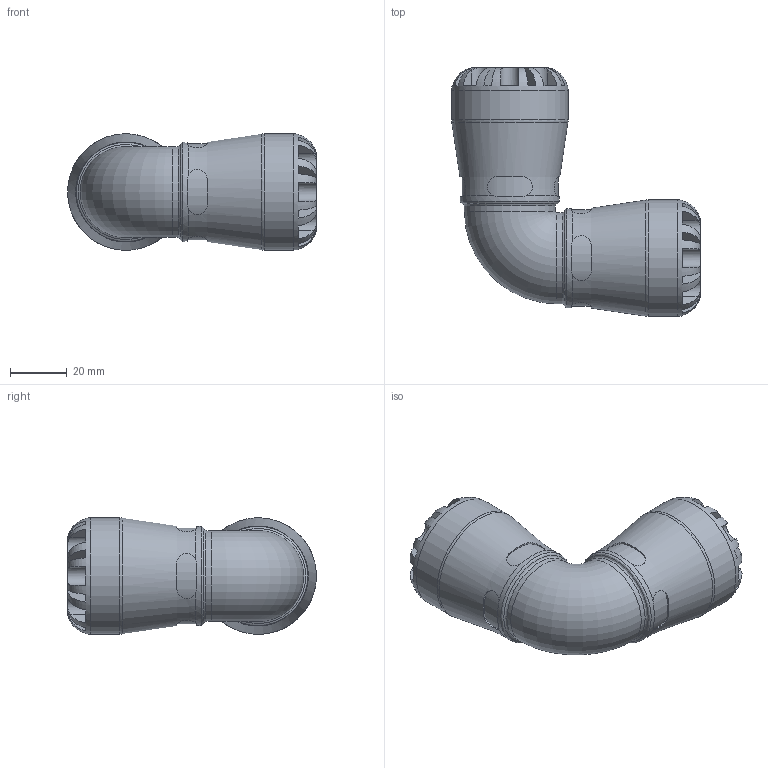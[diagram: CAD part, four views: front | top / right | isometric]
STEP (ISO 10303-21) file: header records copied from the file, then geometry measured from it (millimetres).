
FILE_DESCRIPTION(/* description */ ('PLASSON 90° ELBOW 20X20 SERIES 1'),/* implementation_level */ '2;1');
FILE_NAME(/* name */ 'C:\Dropbox\KIMPROJECTS-Inventor\99-16-3568-Processing\1005\100500020_190400020.ipt.stp',/* time_stamp */ '2017-01-22T11:44:15+02:00',/* author */ ('KIM'),/* organization */ (''),/* preprocessor_version */ 'ST-DEVELOPER v15.6',/* originating_system */ 'Autodesk Inventor 2015',/* authorisation */ '');
FILE_SCHEMA (('AUTOMOTIVE_DESIGN { 1 0 10303 214 3 1 1 }'));
Length unit declared in the file: millimetre
Products named in the file (1): 100500020_190400020
Bounding box: 87.5 x 87.5 x 41 mm (x, y, z)
Volume: 92062.7 mm3; surface area: 26232.3 mm2
Topology: 1 solids, 1 shells, 196 faces, 517 edges, 325 vertices
Faces by surface type: plane 116, cylinder 66, torus 12, cone 2
Full cylindrical faces by diameter (mm): 16.667 x2, 20 x2, 31.98 x2, 34.85 x2, 41 x2
Entity records: 7596 total; most frequent: CARTESIAN_POINT 2861, ORIENTED_EDGE 960, DIRECTION 906, EDGE_CURVE 480, AXIS2_PLACEMENT_3D 373, VERTEX_POINT 312, EDGE_LOOP 224, STYLED_ITEM 197
